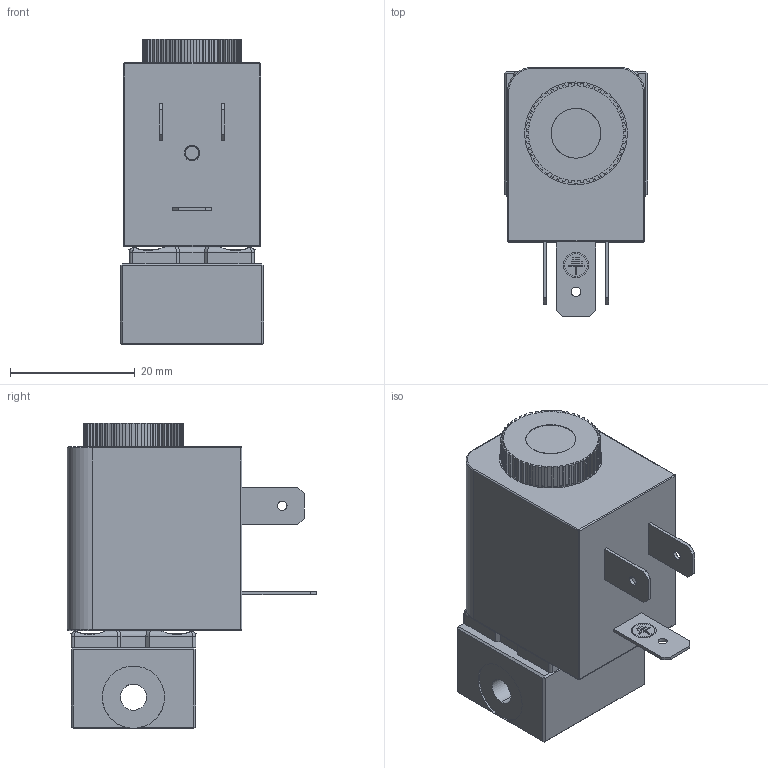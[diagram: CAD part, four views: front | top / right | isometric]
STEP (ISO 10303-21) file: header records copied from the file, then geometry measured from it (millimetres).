
FILE_DESCRIPTION (( 'STEP AP203' ), '1' );
FILE_NAME ('A3011-2两通不锈钢电磁阀M5.STEP', '2022-04-15T01:30:03', ( '深度联盟http://www.deepbbs.org' ), ( 'http://www.deepbbs.org' ), 'SwSTEP 2.0', 'SolidWorks 2016', '' );
FILE_SCHEMA (( 'CONFIG_CONTROL_DESIGN' ));
Length unit declared in the file: millimetre
Products named in the file (1): A3011-2两通不锈钢电磁阀M5
Bounding box: 23 x 40 x 49.1 mm (x, y, z)
Surface area: 8010.7 mm2 (no closed solid volume)
Topology: 0 solids, 11 shells, 515 faces, 1515 edges, 1017 vertices
Faces by surface type: plane 296, cylinder 150, bspline 45, cone 16, torus 4, sphere 4
Entity records: 20460 total; most frequent: CARTESIAN_POINT 7343, ORIENTED_EDGE 2595, DIRECTION 2538, EDGE_CURVE 1511, VECTOR 1054, LINE 1054, VERTEX_POINT 1017, AXIS2_PLACEMENT_3D 742
